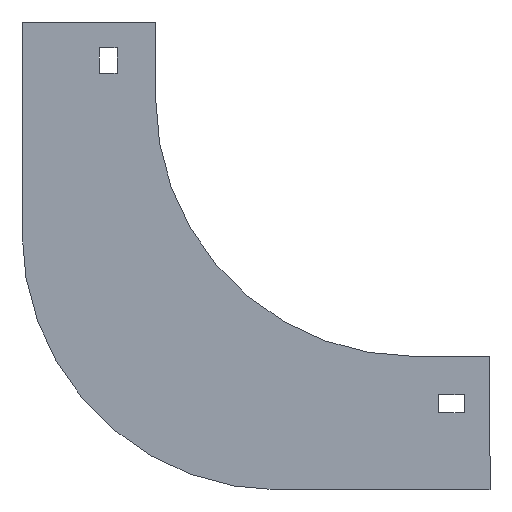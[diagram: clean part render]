
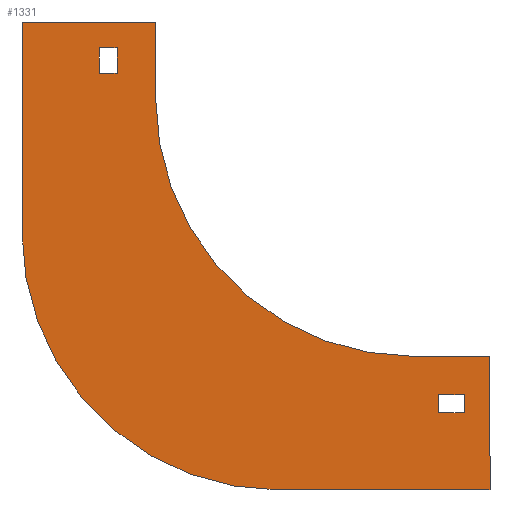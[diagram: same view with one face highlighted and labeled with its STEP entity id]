
A CAD part, left-side view. The second image highlights one B-rep face of the part: STEP entity #1331.
In plain terms, the highlighted planar face has unit normal (-1, 0, 0).
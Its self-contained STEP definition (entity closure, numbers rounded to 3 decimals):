
#8 = AXIS2_PLACEMENT_3D ( 'NONE', #1046, #604, #1162 ) ;
#12 = VERTEX_POINT ( 'NONE', #971 ) ;
#34 = LINE ( 'NONE', #1240, #470 ) ;
#49 = EDGE_CURVE ( 'NONE', #961, #493, #1233, .T. ) ;
#58 = ORIENTED_EDGE ( 'NONE', *, *, #1392, .F. ) ;
#83 = DIRECTION ( 'NONE',  ( -1., 0., 0. ) ) ;
#97 = VECTOR ( 'NONE', #519, 1000. ) ;
#112 = ORIENTED_EDGE ( 'NONE', *, *, #752, .T. ) ;
#113 = DIRECTION ( 'NONE',  ( 0., 0., 1. ) ) ;
#135 = LINE ( 'NONE', #1206, #451 ) ;
#138 = CIRCLE ( 'NONE', #301, 100. ) ;
#142 = CARTESIAN_POINT ( 'NONE',  ( -27., -130., -130. ) ) ;
#158 = EDGE_CURVE ( 'NONE', #327, #809, #135, .T. ) ;
#164 = DIRECTION ( 'NONE',  ( 0., -1., 0. ) ) ;
#180 = VERTEX_POINT ( 'NONE', #768 ) ;
#185 = ORIENTED_EDGE ( 'NONE', *, *, #49, .F. ) ;
#203 = FACE_OUTER_BOUND ( 'NONE', #1166, .T. ) ;
#208 = LINE ( 'NONE', #714, #473 ) ;
#213 = CARTESIAN_POINT ( 'NONE',  ( -27., -48., -82. ) ) ;
#215 = ORIENTED_EDGE ( 'NONE', *, *, #1160, .F. ) ;
#229 = CARTESIAN_POINT ( 'NONE',  ( -27., -110., -152. ) ) ;
#234 = EDGE_CURVE ( 'NONE', #1004, #327, #1091, .T. ) ;
#243 = LINE ( 'NONE', #773, #589 ) ;
#248 = VERTEX_POINT ( 'NONE', #895 ) ;
#257 = ORIENTED_EDGE ( 'NONE', *, *, #1294, .F. ) ;
#264 = VERTEX_POINT ( 'NONE', #406 ) ;
#266 = DIRECTION ( 'NONE',  ( 0., 0., 1. ) ) ;
#271 = DIRECTION ( 'NONE',  ( 0., 0., -1. ) ) ;
#301 = AXIS2_PLACEMENT_3D ( 'NONE', #213, #1384, #1260 ) ;
#306 = ORIENTED_EDGE ( 'NONE', *, *, #1360, .F. ) ;
#327 = VERTEX_POINT ( 'NONE', #499 ) ;
#330 = VERTEX_POINT ( 'NONE', #916 ) ;
#334 = LINE ( 'NONE', #956, #861 ) ;
#373 = CARTESIAN_POINT ( 'NONE',  ( -27., 22., -10. ) ) ;
#388 = VERTEX_POINT ( 'NONE', #655 ) ;
#392 = VERTEX_POINT ( 'NONE', #962 ) ;
#406 = CARTESIAN_POINT ( 'NONE',  ( -27., -100., -130. ) ) ;
#415 = LINE ( 'NONE', #629, #97 ) ;
#425 = DIRECTION ( 'NONE',  ( 0., 1., 0. ) ) ;
#439 = VECTOR ( 'NONE', #266, 1000. ) ;
#442 = ORIENTED_EDGE ( 'NONE', *, *, #1117, .F. ) ;
#448 = LINE ( 'NONE', #562, #652 ) ;
#451 = VECTOR ( 'NONE', #890, 1000. ) ;
#456 = VECTOR ( 'NONE', #1153, 1000. ) ;
#461 = EDGE_CURVE ( 'NONE', #392, #388, #138, .T. ) ;
#470 = VECTOR ( 'NONE', #271, 1000. ) ;
#473 = VECTOR ( 'NONE', #425, 1000. ) ;
#481 = DIRECTION ( 'NONE',  ( 0., -1., 0. ) ) ;
#483 = VERTEX_POINT ( 'NONE', #528 ) ;
#493 = VERTEX_POINT ( 'NONE', #1056 ) ;
#499 = CARTESIAN_POINT ( 'NONE',  ( -27., -120., -152. ) ) ;
#504 = EDGE_CURVE ( 'NONE', #264, #12, #1140, .T. ) ;
#507 = ORIENTED_EDGE ( 'NONE', *, *, #791, .T. ) ;
#519 = DIRECTION ( 'NONE',  ( 0., 0., -1. ) ) ;
#528 = CARTESIAN_POINT ( 'NONE',  ( -27., 15., -10. ) ) ;
#560 = VECTOR ( 'NONE', #682, 1000. ) ;
#562 = CARTESIAN_POINT ( 'NONE',  ( -27., 22., -20. ) ) ;
#572 = EDGE_LOOP ( 'NONE', ( #112, #507, #1081, #1336 ) ) ;
#580 = DIRECTION ( 'NONE',  ( 0., 0., -1. ) ) ;
#589 = VECTOR ( 'NONE', #678, 1000. ) ;
#604 = DIRECTION ( 'NONE',  ( -1., 0., 0. ) ) ;
#617 = FACE_BOUND ( 'NONE', #572, .T. ) ;
#629 = CARTESIAN_POINT ( 'NONE',  ( -27., 0., 0. ) ) ;
#633 = DIRECTION ( 'NONE',  ( 0., 0., 1. ) ) ;
#652 = VECTOR ( 'NONE', #1058, 1000. ) ;
#655 = CARTESIAN_POINT ( 'NONE',  ( -27., 52., -82. ) ) ;
#678 = DIRECTION ( 'NONE',  ( 0., 1., 0. ) ) ;
#682 = DIRECTION ( 'NONE',  ( 0., -1., 0. ) ) ;
#706 = CARTESIAN_POINT ( 'NONE',  ( -27., -120., -145. ) ) ;
#709 = ORIENTED_EDGE ( 'NONE', *, *, #504, .F. ) ;
#714 = CARTESIAN_POINT ( 'NONE',  ( -27., -130., -182. ) ) ;
#717 = FACE_BOUND ( 'NONE', #745, .T. ) ;
#742 = ORIENTED_EDGE ( 'NONE', *, *, #461, .F. ) ;
#745 = EDGE_LOOP ( 'NONE', ( #215, #1377, #859, #306 ) ) ;
#752 = EDGE_CURVE ( 'NONE', #330, #483, #1313, .T. ) ;
#768 = CARTESIAN_POINT ( 'NONE',  ( -27., 22., -20. ) ) ;
#773 = CARTESIAN_POINT ( 'NONE',  ( -27., -120., -145. ) ) ;
#788 = LINE ( 'NONE', #1228, #439 ) ;
#791 = EDGE_CURVE ( 'NONE', #483, #248, #34, .T. ) ;
#809 = VERTEX_POINT ( 'NONE', #706 ) ;
#823 = CARTESIAN_POINT ( 'NONE',  ( -27., -100., -130. ) ) ;
#831 = CARTESIAN_POINT ( 'NONE',  ( -27., 52., 0. ) ) ;
#859 = ORIENTED_EDGE ( 'NONE', *, *, #234, .F. ) ;
#861 = VECTOR ( 'NONE', #113, 1000. ) ;
#890 = DIRECTION ( 'NONE',  ( 0., 0., 1. ) ) ;
#895 = CARTESIAN_POINT ( 'NONE',  ( -27., 15., -20. ) ) ;
#915 = VERTEX_POINT ( 'NONE', #1270 ) ;
#916 = CARTESIAN_POINT ( 'NONE',  ( -27., 22., -10. ) ) ;
#917 = LINE ( 'NONE', #1356, #1128 ) ;
#925 = CARTESIAN_POINT ( 'NONE',  ( -27., -120., -152. ) ) ;
#933 = ORIENTED_EDGE ( 'NONE', *, *, #1378, .F. ) ;
#943 = EDGE_CURVE ( 'NONE', #915, #392, #208, .T. ) ;
#954 = ORIENTED_EDGE ( 'NONE', *, *, #943, .F. ) ;
#956 = CARTESIAN_POINT ( 'NONE',  ( -27., 52., -82. ) ) ;
#961 = VERTEX_POINT ( 'NONE', #831 ) ;
#962 = CARTESIAN_POINT ( 'NONE',  ( -27., -48., -182. ) ) ;
#971 = CARTESIAN_POINT ( 'NONE',  ( -27., -130., -130. ) ) ;
#1004 = VERTEX_POINT ( 'NONE', #229 ) ;
#1025 = EDGE_CURVE ( 'NONE', #248, #180, #448, .T. ) ;
#1033 = CIRCLE ( 'NONE', #8, 100. ) ;
#1039 = VECTOR ( 'NONE', #481, 1000. ) ;
#1046 = CARTESIAN_POINT ( 'NONE',  ( -27., -100., -30. ) ) ;
#1056 = CARTESIAN_POINT ( 'NONE',  ( -27., 0., 0. ) ) ;
#1058 = DIRECTION ( 'NONE',  ( 0., 1., 0. ) ) ;
#1081 = ORIENTED_EDGE ( 'NONE', *, *, #1025, .T. ) ;
#1091 = LINE ( 'NONE', #925, #1192 ) ;
#1102 = LINE ( 'NONE', #142, #1406 ) ;
#1103 = VERTEX_POINT ( 'NONE', #1180 ) ;
#1117 = EDGE_CURVE ( 'NONE', #388, #961, #334, .T. ) ;
#1120 = CARTESIAN_POINT ( 'NONE',  ( -27., 52., 0. ) ) ;
#1128 = VECTOR ( 'NONE', #1146, 1000. ) ;
#1134 = PLANE ( 'NONE',  #1161 ) ;
#1140 = LINE ( 'NONE', #823, #456 ) ;
#1146 = DIRECTION ( 'NONE',  ( 0., 0., -1. ) ) ;
#1153 = DIRECTION ( 'NONE',  ( 0., -1., 0. ) ) ;
#1160 = EDGE_CURVE ( 'NONE', #809, #1103, #243, .T. ) ;
#1161 = AXIS2_PLACEMENT_3D ( 'NONE', #1256, #83, #633 ) ;
#1162 = DIRECTION ( 'NONE',  ( 0., 0., 1. ) ) ;
#1166 = EDGE_LOOP ( 'NONE', ( #185, #442, #742, #954, #257, #709, #58, #933 ) ) ;
#1180 = CARTESIAN_POINT ( 'NONE',  ( -27., -110., -145. ) ) ;
#1184 = VERTEX_POINT ( 'NONE', #1237 ) ;
#1192 = VECTOR ( 'NONE', #164, 1000. ) ;
#1206 = CARTESIAN_POINT ( 'NONE',  ( -27., -120., -152. ) ) ;
#1228 = CARTESIAN_POINT ( 'NONE',  ( -27., 22., -10. ) ) ;
#1233 = LINE ( 'NONE', #1120, #1039 ) ;
#1237 = CARTESIAN_POINT ( 'NONE',  ( -27., 0., -30. ) ) ;
#1240 = CARTESIAN_POINT ( 'NONE',  ( -27., 15., -10. ) ) ;
#1256 = CARTESIAN_POINT ( 'NONE',  ( -27., -100., -30. ) ) ;
#1260 = DIRECTION ( 'NONE',  ( 0., 0., -1. ) ) ;
#1270 = CARTESIAN_POINT ( 'NONE',  ( -27., -130., -182. ) ) ;
#1294 = EDGE_CURVE ( 'NONE', #12, #915, #1102, .T. ) ;
#1302 = EDGE_CURVE ( 'NONE', #180, #330, #788, .T. ) ;
#1313 = LINE ( 'NONE', #373, #560 ) ;
#1331 = ADVANCED_FACE ( 'NONE', ( #617, #203, #717 ), #1134, .T. ) ;
#1336 = ORIENTED_EDGE ( 'NONE', *, *, #1302, .T. ) ;
#1356 = CARTESIAN_POINT ( 'NONE',  ( -27., -110., -152. ) ) ;
#1360 = EDGE_CURVE ( 'NONE', #1103, #1004, #917, .T. ) ;
#1377 = ORIENTED_EDGE ( 'NONE', *, *, #158, .F. ) ;
#1378 = EDGE_CURVE ( 'NONE', #493, #1184, #415, .T. ) ;
#1384 = DIRECTION ( 'NONE',  ( 1., 0., 0. ) ) ;
#1392 = EDGE_CURVE ( 'NONE', #1184, #264, #1033, .T. ) ;
#1406 = VECTOR ( 'NONE', #580, 1000. ) ;
